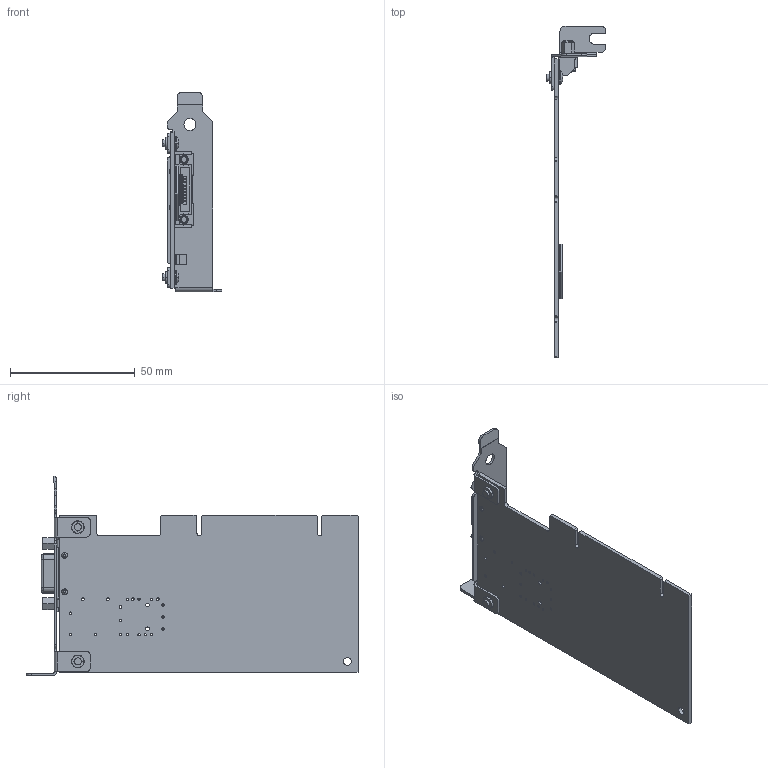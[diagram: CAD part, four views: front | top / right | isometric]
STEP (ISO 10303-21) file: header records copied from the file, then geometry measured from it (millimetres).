
FILE_DESCRIPTION((''),'2;1');
FILE_NAME('COPPER_LOW_PROFILE_SW0001','2011-07-25T',('gvillanu'),(''),'PRO/ENGINEER BY PARAMETRIC TECHNOLOGY CORPORATION, 2010230','PRO/ENGINEER BY PARAMETRIC TECHNOLOGY CORPORATION, 2010230','');
FILE_SCHEMA(('CONFIG_CONTROL_DESIGN'));
Products named in the file (1): COPPER_LOW_PROFILE_SW0001
Bounding box: 23.93 x 133.25 x 80.23 mm (x, y, z)
Volume: 15047.5 mm3; surface area: 21313 mm2
Topology: 2 solids, 4 shells, 2121 faces, 5836 edges, 3716 vertices
Faces by surface type: plane 1277, cylinder 624, bspline 98, extrusion 72, torus 30, cone 16, sphere 4
Entity records: 74375 total; most frequent: CARTESIAN_POINT 21297, ORIENTED_EDGE 11568, DIRECTION 10120, EDGE_CURVE 5784, VECTOR 4196, LINE 4124, VERTEX_POINT 3754, AXIS2_PLACEMENT_3D 2962
